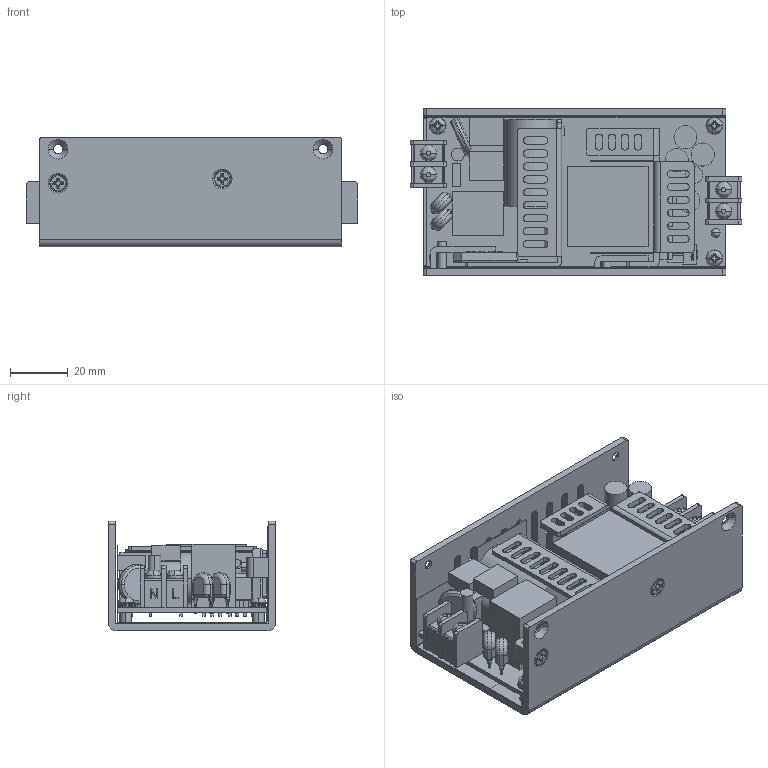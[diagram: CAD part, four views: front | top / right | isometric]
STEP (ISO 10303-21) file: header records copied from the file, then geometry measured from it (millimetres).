
FILE_DESCRIPTION((''),'2;1');
FILE_NAME('ASSEMBLY_-_AES60-E_ASM','2016-01-26T',('arch'),(''),'PRO/ENGINEER BY PARAMETRIC TECHNOLOGY CORPORATION, 2008380','PRO/ENGINEER BY PARAMETRIC TECHNOLOGY CORPORATION, 2008380','');
FILE_SCHEMA(('CONFIG_CONTROL_DESIGN'));
Length unit declared in the file: millimetre
Products named in the file (39): BOT_CASE-119; M3_-_6_5_MM; M3_-_2R5_MM; BOT_CASE-80_ASM; MANIFOLD_SOLID_BREP_4386; MANIFOLD_SOLID_BREP_4576; MANIFOLD_SOLID_BREP_6073; MANIFOLD_SOLID_BREP_6228; PCB-4210_ASM; X1_HEATSINK; X2_HEATSINK; INLET_9_MM_5; INLET_9_MM_6; IN_INLET_ASM; INLET_9_MM_7; INLET_9_MM_8; OUT_INLET_ASM; MYLAR_-_T1; TO-220FP_4; TO-220FP_5; TO-220FP_6; BD1_2; VR; LED_-_3MM; Y_--_C; RV1_2; PCB-4171_ASM; MYLAR_-_CASE; SILICON_-_CASE; L_X2_5F6256FA5B9A7247_X0_-43145; SCREW_PH_M3_X_6_MM; L_X2_5F6256FA5B9A7247_X0_-44794; SCREW_PH_M3_10_MM; MANIFOLD_SOLID_BREP_53705; MANIFOLD_SOLID_BREP_53851; MANIFOLD_SOLID_BREP_54125; SCREW_CH_W__M3_6MM_ASM; ASSEMBLY_ASM; ASSEMBLY_-_AES60-E_ASM
Assembly tree (48 placements, depth 5):
  ASSEMBLY_-_AES60-E_ASM
    ASSEMBLY_ASM
      BOT_CASE-80_ASM
        BOT_CASE-119
        M3_-_6_5_MM  x4
        M3_-_2R5_MM  x4
      PCB-4171_ASM
        PCB-4210_ASM
          MANIFOLD_SOLID_BREP_4386
          MANIFOLD_SOLID_BREP_4576
          MANIFOLD_SOLID_BREP_6073
          MANIFOLD_SOLID_BREP_6228
        X1_HEATSINK
        X2_HEATSINK
        IN_INLET_ASM
          INLET_9_MM_5
          INLET_9_MM_6
        OUT_INLET_ASM
          INLET_9_MM_7
          INLET_9_MM_8
        MYLAR_-_T1
        TO-220FP_4
        TO-220FP_5
        TO-220FP_6
        BD1_2
        VR
        LED_-_3MM
        Y_--_C  x2
        RV1_2
      MYLAR_-_CASE
      SILICON_-_CASE
      L_X2_5F6256FA5B9A7247_X0_-43145
      SCREW_PH_M3_X_6_MM
      L_X2_5F6256FA5B9A7247_X0_-44794
      SCREW_PH_M3_10_MM
      SCREW_CH_W__M3_6MM_ASM  x4
        MANIFOLD_SOLID_BREP_53705
        MANIFOLD_SOLID_BREP_53851
        MANIFOLD_SOLID_BREP_54125
Bounding box: 115 x 58 x 38.1 mm (x, y, z)
Volume: 98591.6 mm3; surface area: 93195.2 mm2
Topology: 47 solids, 47 shells, 1801 faces, 4699 edges, 3072 vertices
Faces by surface type: plane 941, cylinder 404, extrusion 184, torus 118, cone 104, bspline 48, sphere 2
Entity records: 49163 total; most frequent: CARTESIAN_POINT 11416, ORIENTED_EDGE 7796, DIRECTION 7356, EDGE_CURVE 3898, VECTOR 2672, VERTEX_POINT 2555, LINE 2488, AXIS2_PLACEMENT_3D 2342
